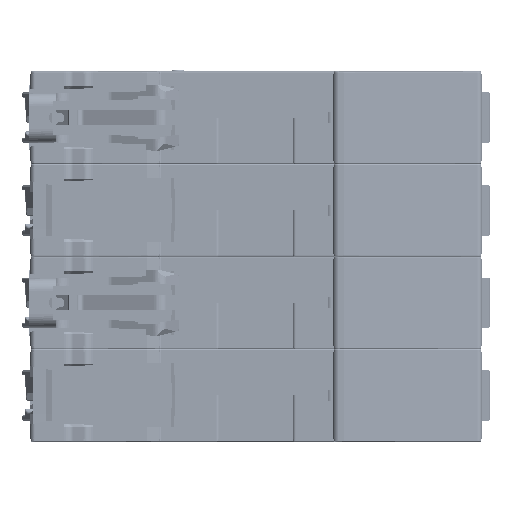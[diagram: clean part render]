
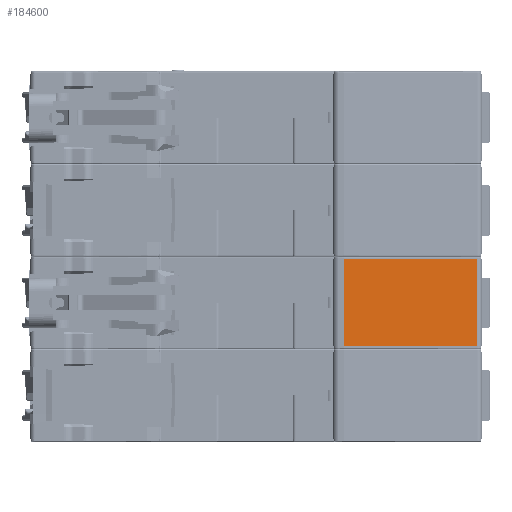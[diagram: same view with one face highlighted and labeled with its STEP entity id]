
A CAD part, front view. The second image highlights one B-rep face of the part: STEP entity #184600.
In plain terms, the highlighted planar face has unit normal (0.113, -0.994, 0).
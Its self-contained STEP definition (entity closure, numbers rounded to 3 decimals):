
#36318=DIRECTION('',(0.,0.,-1.));
#36319=VECTOR('',#36318,16.4);
#36320=CARTESIAN_POINT('',(16.5,-63.3,-26.6));
#36321=LINE('',#36320,#36319);
#36326=DIRECTION('',(-0.994,-0.113,0.));
#36327=VECTOR('',#36326,25.276);
#36328=CARTESIAN_POINT('',(41.613,-60.439,-26.6));
#36329=LINE('',#36328,#36327);
#36330=DIRECTION('',(-0.994,-0.113,0.));
#36331=VECTOR('',#36330,25.276);
#36332=CARTESIAN_POINT('',(41.613,-60.439,-43.));
#36333=LINE('',#36332,#36331);
#36334=DIRECTION('',(0.,0.,1.));
#36335=VECTOR('',#36334,16.4);
#36336=CARTESIAN_POINT('',(41.613,-60.439,-43.));
#36337=LINE('',#36336,#36335);
#118597=CARTESIAN_POINT('',(41.613,-60.439,-43.));
#118598=CARTESIAN_POINT('',(16.5,-63.3,-43.));
#118599=VERTEX_POINT('',#118597);
#118600=VERTEX_POINT('',#118598);
#120870=CARTESIAN_POINT('',(41.613,-60.439,-26.6));
#120871=CARTESIAN_POINT('',(16.5,-63.3,-26.6));
#120872=VERTEX_POINT('',#120870);
#120873=VERTEX_POINT('',#120871);
#184588=CARTESIAN_POINT('',(42.5,-60.338,-34.8));
#184589=DIRECTION('',(0.113,-0.994,0.));
#184590=DIRECTION('',(-0.994,-0.113,0.));
#184591=AXIS2_PLACEMENT_3D('',#184588,#184589,#184590);
#184592=PLANE('',#184591);
#184593=ORIENTED_EDGE('',*,*,#184575,.F.);
#184594=ORIENTED_EDGE('',*,*,#184021,.F.);
#184596=ORIENTED_EDGE('',*,*,#184595,.F.);
#184597=ORIENTED_EDGE('',*,*,#184326,.T.);
#184598=EDGE_LOOP('',(#184593,#184594,#184596,#184597));
#184599=FACE_OUTER_BOUND('',#184598,.F.);
#184021=EDGE_CURVE('',#120872,#120873,#36329,.T.);
#184326=EDGE_CURVE('',#118599,#118600,#36333,.T.);
#184575=EDGE_CURVE('',#120873,#118600,#36321,.T.);
#184595=EDGE_CURVE('',#118599,#120872,#36337,.T.);
#184600=ADVANCED_FACE('',(#184599),#184592,.T.);
